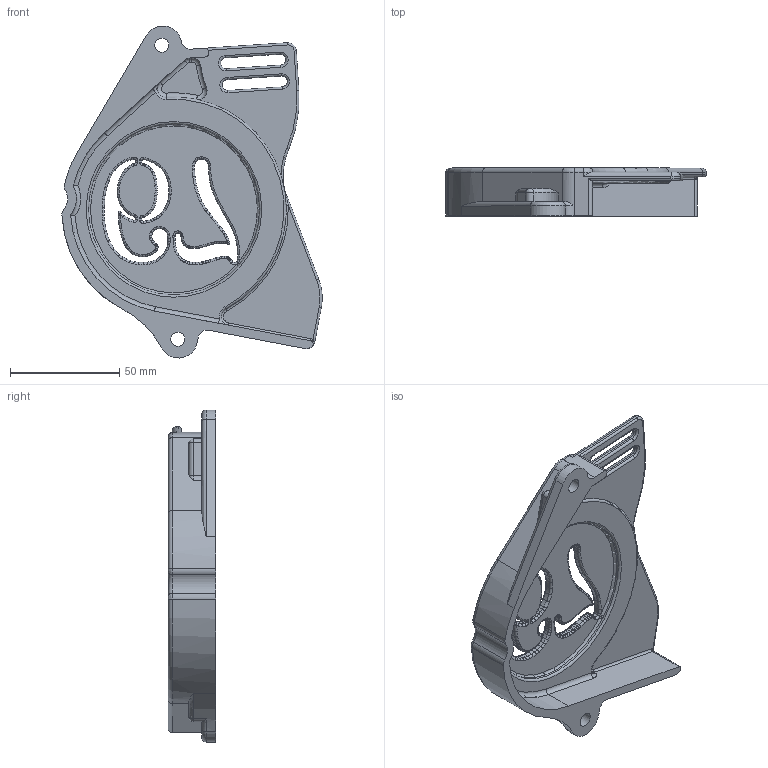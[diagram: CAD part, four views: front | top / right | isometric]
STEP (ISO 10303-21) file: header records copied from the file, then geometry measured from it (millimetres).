
FILE_DESCRIPTION(/* description */ (''),/* implementation_level */ '2;1');
FILE_NAME(/* name */ 'sprocket-guard-V2.step',/* time_stamp */ '2026-06-04T16:15:46-07:00',/* author */ (''),/* organization */ (''),/* preprocessor_version */ 'ST-DEVELOPER v20.1',/* originating_system */ 'Autodesk Translation Framework v15.8.0.0',/* authorisation */ '');
FILE_SCHEMA (('AUTOMOTIVE_DESIGN { 1 0 10303 214 3 1 1 }'));
Length unit declared in the file: millimetre
Products named in the file (1): sprocket-guard-V2
Bounding box: 119.29 x 22 x 152.17 mm (x, y, z)
Volume: 72928.5 mm3; surface area: 37294.5 mm2
Topology: 1 solids, 1 shells, 852 faces, 2011 edges, 1150 vertices
Faces by surface type: torus 483, cylinder 301, plane 36, bspline 32
Full cylindrical faces by diameter (mm): 6.5 x2, 78.492 x1, 86.492 x1, 94.492 x1
Entity records: 25841 total; most frequent: CARTESIAN_POINT 5302, DIRECTION 5161, ORIENTED_EDGE 3998, AXIS2_PLACEMENT_3D 2389, EDGE_CURVE 1999, CIRCLE 1567, VERTEX_POINT 1150, EDGE_LOOP 867
